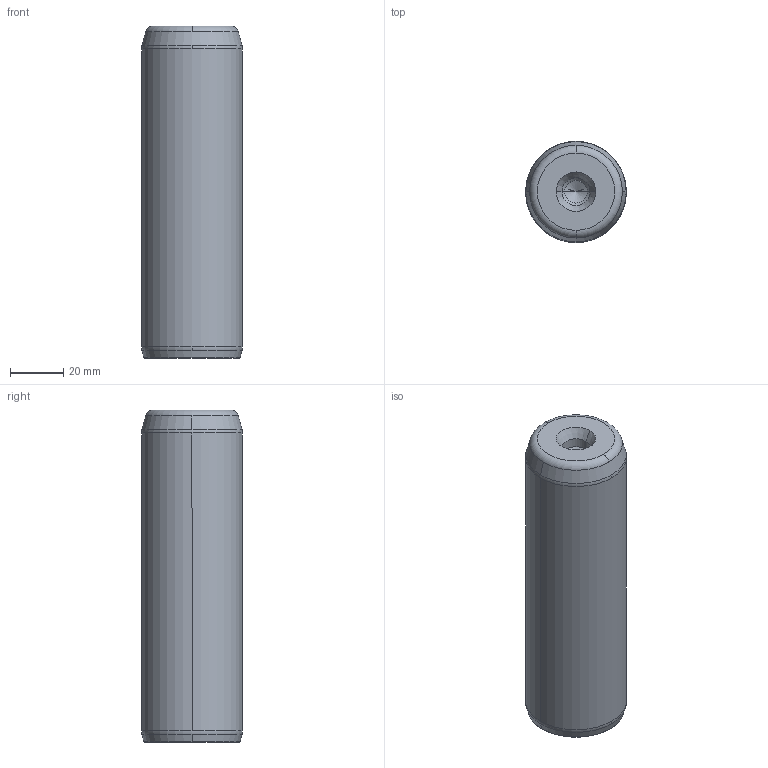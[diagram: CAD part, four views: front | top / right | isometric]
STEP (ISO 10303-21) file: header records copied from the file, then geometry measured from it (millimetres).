
FILE_DESCRIPTION((''),'2;1');
FILE_NAME('P10_038_125.stp','2008-12-23T15:13:32',(''),(''),'Mechanical Desktop 2009','Mechanical Desktop 2009',', , ');
FILE_SCHEMA(('CONFIG_CONTROL_DESIGN'));
Length unit declared in the file: millimetre
Products named in the file (5): Product; ProductAA; blmdl1; ProductA; blmdl1A
Assembly tree (2 placements, depth 3):
  Product
    ProductAA
      blmdl1
  ProductA
  blmdl1A
Bounding box: 38 x 38 x 125 mm (x, y, z)
Volume: 138331.1 mm3; surface area: 17542.9 mm2
Topology: 1 solids, 1 shells, 26 faces, 66 edges, 41 vertices
Faces by surface type: cone 10, torus 8, cylinder 6, plane 2
Entity records: 1012 total; most frequent: DIRECTION 170, CARTESIAN_POINT 134, ORIENTED_EDGE 128, AXIS2_PLACEMENT_3D 77, EDGE_CURVE 64, CIRCLE 48, VERTEX_POINT 41, EDGE_LOOP 27
